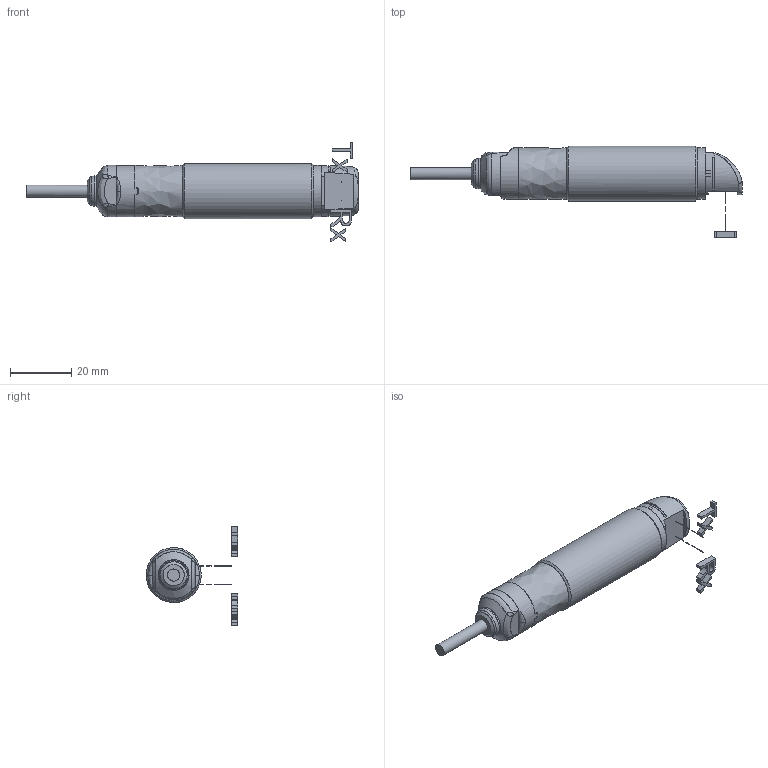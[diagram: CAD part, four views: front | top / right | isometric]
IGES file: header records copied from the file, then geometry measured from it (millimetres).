
Global section: file name: D:\TMP\DSD-0098.igs; preprocessor: I-DEAS 3D IGES Translator 11; date: 20060608.104047; units: millimetre
Bounding box: 108.63 x 30 x 32.67 mm (x, y, z)
Surface area: 10288.6 mm2
Topology: 8 solids, 8 shells, 220 faces, 1028 edges, 943 vertices
Faces by surface type: bspline 220
